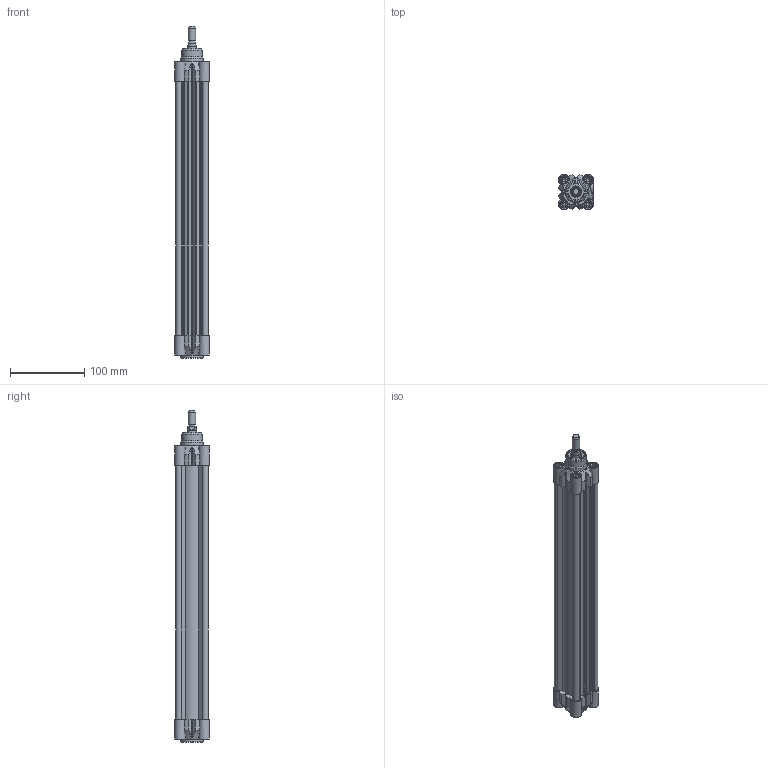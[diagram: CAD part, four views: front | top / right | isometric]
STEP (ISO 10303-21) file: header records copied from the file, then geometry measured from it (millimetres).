
FILE_DESCRIPTION(/* description */ ('CILINDRO D.E. MAGNETICO AMMORTIZZATO ISO 15552'),/* implementation_level */ '2;1');
FILE_NAME(/* name */ 'T:\Archivio Inventor\- 00 NUOVI STP PER SITO CON STELO CHE SI MUOVE\SERIE H - U\SERIE HDM\HDM032-TUBO NUOVO\HDM032.300.GS.M.stp',/* time_stamp */ '2018-07-25T14:27:44+02:00',/* author */ ('carlo.corazza'),/* organization */ (''),/* preprocessor_version */ 'ST-DEVELOPER v16.5',/* originating_system */ 'Autodesk Inventor 2017',/* authorisation */ '');
FILE_SCHEMA (('AUTOMOTIVE_DESIGN { 1 0 10303 214 3 1 1 }'));
Length unit declared in the file: millimetre
Products named in the file (5): HDM032.300.GS.M; TP; STELO-300; TA; CORPO-300
Assembly tree (4 placements, depth 2):
  HDM032.300.GS.M
    TP
    STELO-300
    TA
    CORPO-300
Bounding box: 47 x 47 x 446 mm (x, y, z)
Volume: 308919 mm3; surface area: 218410.5 mm2
Topology: 4 solids, 18 shells, 969 faces, 2356 edges, 1494 vertices
Faces by surface type: plane 330, cylinder 260, bspline 190, cone 86, torus 83, sphere 20
Full cylindrical faces by diameter (mm): 2 x2, 2.1 x2, 4 x2, 4.5 x2, 4.917 x8, 6 x8, 6.2 x8, 6.3 x4, 7 x2, 7.8 x4, 7.9 x3, 8 x4, 8.566 x2, 10 x9, 10.3 x8, 11.6 x1, 12 x1, 12.8 x1, 12.847 x1, 16 x1, 17 x2, 22 x3, 28 x1, 30 x2, 32 x1
Entity records: 31186 total; most frequent: CARTESIAN_POINT 9171, ORIENTED_EDGE 4162, DIRECTION 4048, EDGE_CURVE 2081, AXIS2_PLACEMENT_3D 1569, VERTEX_POINT 1436, EDGE_LOOP 1302, FACE_OUTER_BOUND 969
